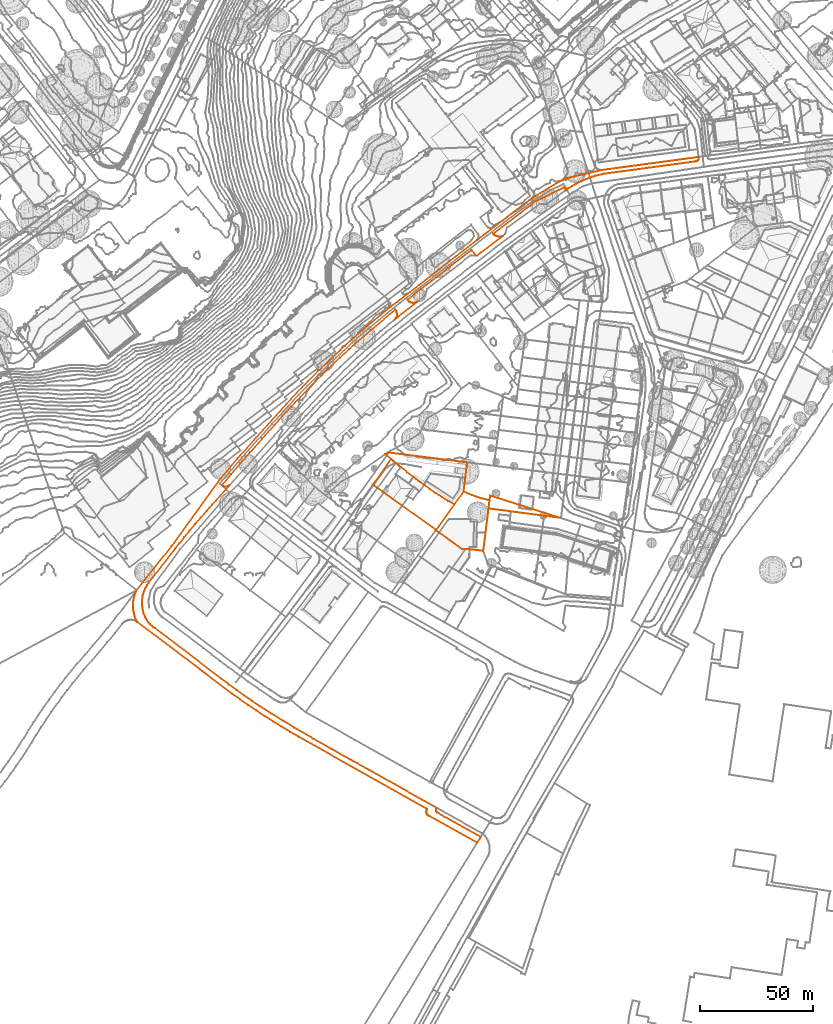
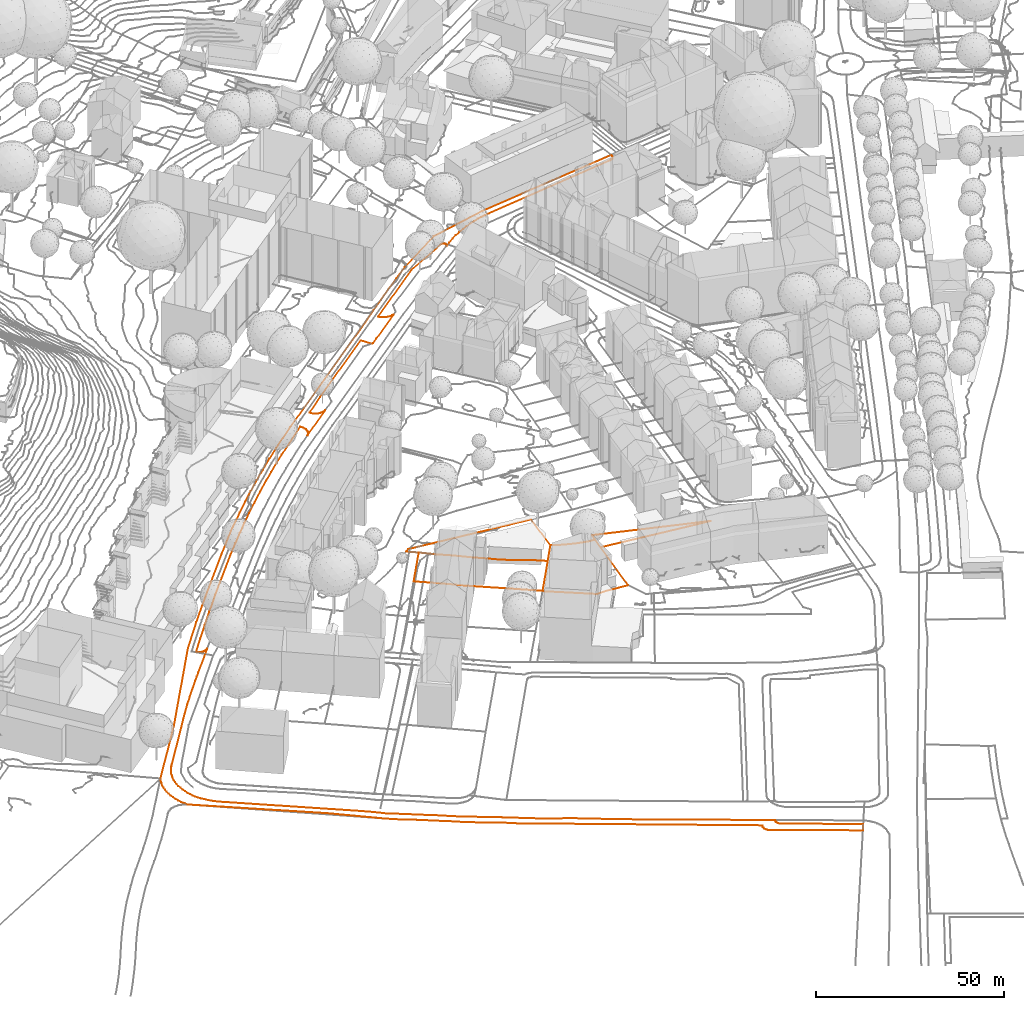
# Not in any storey, part 118 of 494: 5 proxies.
"""IFC2X3 model written with IfcOpenShell, lengths in metres."""

from ifc_helpers import new_model, entity, si_unit, frame, origin_with_axes, place, context, subcontext, project, element, save


model = new_model("IFC2X3")

# Units and contexts
model_context = context("Model", 3, precision=1e-05, world=origin_with_axes())
body_context = subcontext(model_context, "Body", "Model", "MODEL_VIEW")
ifc_project = project(units=[si_unit("AREAUNIT", "SQUARE_METRE"), si_unit("LENGTHUNIT", "METRE")], contexts=[model_context])

# Proxies
proxy_1_placement = place(None, frame((258.6207320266, -15.0252839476, 503.8566566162), z_axis=(0.0, 0.0, 1.0), x_axis=(1.0, 0.0, 0.0)))
element("IfcBuildingElementProxy", 1, at=proxy_1_placement, Name="Roads Outline 103", ObjectType="NOTDEFINED", context=body_context, shape_type="GeometricCurveSet", body=[
    entity("IfcGeometricCurveSet", [entity("IfcPolyline", [entity("IfcCartesianPoint", [1.611, 7.0649999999, 0.0298461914]), entity("IfcCartesianPoint", [17.1669999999, 26.7960000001, -0.1664721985]), entity("IfcCartesianPoint", [38.4780000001, 56.2720000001, -0.3232977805]), entity("IfcCartesianPoint", [46.469, 65.6499999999, -0.3978756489]), entity("IfcCartesianPoint", [54.6269999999, 74.926, -0.5072653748]), entity("IfcCartesianPoint", [68.2480000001, 89.9620000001, -0.6473626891]), entity("IfcCartesianPoint", [77.3870000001, 99.74, -0.7626127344]), entity("IfcCartesianPoint", [82.2609999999, 104.4909999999, -0.8225917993]), entity("IfcCartesianPoint", [86.0449999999, 108.186, -0.8359621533]), entity("IfcCartesianPoint", [89.8790000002, 111.828, -0.9376377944]), entity("IfcCartesianPoint", [93.7650000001, 115.4170000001, -0.9897374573]), entity("IfcCartesianPoint", [97.7000000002, 118.95, -1.0457364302]), entity("IfcCartesianPoint", [101.6809999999, 122.426, -1.0917887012]), entity("IfcCartesianPoint", [105.71, 125.8470000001, -1.1440215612]), entity("IfcCartesianPoint", [109.787, 129.2120000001, -1.2268797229]), entity("IfcCartesianPoint", [113.909, 132.52, -1.1977058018]), entity("IfcCartesianPoint", [121.807, 138.6799999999, -1.3148771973]), entity("IfcCartesianPoint", [152.7910000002, 162.585, -1.2873144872]), entity("IfcCartesianPoint", [160.0279999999, 168.1699999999, -1.1047125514]), entity("IfcCartesianPoint", [172.628, 177.8910000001, -0.9646272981]), entity("IfcCartesianPoint", [177.2290000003, 181.1840000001, -0.9536199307]), entity("IfcCartesianPoint", [191.0330000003, 189.6470000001, -0.8587447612]), entity("IfcCartesianPoint", [208.1800000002, 193.6170000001, -1.0532250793]), entity("IfcCartesianPoint", [224.858, 195.861, -1.1563147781]), entity("IfcCartesianPoint", [250.23, 199.277, -1.3678007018]), entity("IfcCartesianPoint", [251.085, 199.392, -1.3553995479]), entity("IfcCartesianPoint", [251.1230000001, 199.1200000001, -1.3535357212]), entity("IfcCartesianPoint", [251.1189999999, 198.8460000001, -1.3535559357]), entity("IfcCartesianPoint", [251.0729999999, 198.575, -1.3551996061]), entity("IfcCartesianPoint", [250.9590000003, 198.2520000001, -1.3566142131]), entity("IfcCartesianPoint", [250.7850000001, 197.956, -1.3559932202]), entity("IfcCartesianPoint", [250.5580000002, 197.699, -1.3516307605]), entity("IfcCartesianPoint", [250.2710000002, 197.591, -1.3486239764]), entity("IfcCartesianPoint", [249.977, 197.503, -1.3475760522]), entity("IfcCartesianPoint", [249.7080000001, 197.4399999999, -1.3480654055]), entity("IfcCartesianPoint", [249.4350000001, 197.3940000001, -1.3512664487]), entity("IfcCartesianPoint", [209.1910000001, 191.9380000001, -1.1516545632]), entity("IfcCartesianPoint", [207.9020000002, 191.679, -1.1146645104]), entity("IfcCartesianPoint", [206.6210000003, 191.379, -1.0530327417]), entity("IfcCartesianPoint", [205.3510000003, 191.04, -1.0110439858]), entity("IfcCartesianPoint", [203.8969999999, 190.5970000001, -0.9752242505]), entity("IfcCartesianPoint", [202.4610000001, 190.102, -0.9531931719]), entity("IfcCartesianPoint", [201.0440000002, 189.5549999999, -1.0156338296]), entity("IfcCartesianPoint", [199.6469999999, 188.956, -1.0330962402]), entity("IfcCartesianPoint", [198.0320000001, 188.1980000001, -1.074926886]), entity("IfcCartesianPoint", [196.4500000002, 187.3740000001, -1.055605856]), entity("IfcCartesianPoint", [194.9040000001, 186.4839999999, -1.0990647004]), entity("IfcCartesianPoint", [193.3960000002, 185.53, -1.159563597]), entity("IfcCartesianPoint", [191.9300000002, 184.514, -1.1621339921]), entity("IfcCartesianPoint", [192.074, 184.6780000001, -1.1609508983]), entity("IfcCartesianPoint", [192.165, 184.8770000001, -1.1516755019]), entity("IfcCartesianPoint", [192.1970000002, 185.0930000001, -1.1421356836]), entity("IfcCartesianPoint", [192.1660000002, 185.3090000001, -1.1314248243]), entity("IfcCartesianPoint", [192.0759999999, 185.5079999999, -1.117863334]), entity("IfcCartesianPoint", [191.9300000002, 185.676, -1.100429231]), entity("IfcCartesianPoint", [191.7420000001, 185.794, -1.0848717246]), entity("IfcCartesianPoint", [191.5279999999, 185.8540000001, -1.0730279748]), entity("IfcCartesianPoint", [191.3059999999, 185.8489999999, -1.0681995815]), entity("IfcCartesianPoint", [191.094, 185.781, -1.0644594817]), entity("IfcCartesianPoint", [178.3429999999, 179.4920000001, -1.0675894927]), entity("IfcCartesianPoint", [159.8280000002, 165.291, -1.2504426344]), entity("IfcCartesianPoint", [160.1669999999, 164.98, -1.2712112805]), entity("IfcCartesianPoint", [160.5380000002, 164.71, -1.2896322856]), entity("IfcCartesianPoint", [160.9380000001, 164.483, -1.3091541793]), entity("IfcCartesianPoint", [161.361, 164.304, -1.3317790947]), entity("IfcCartesianPoint", [161.8020000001, 164.173, -1.3564187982]), entity("IfcCartesianPoint", [162.358, 164.081, -1.381497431]), entity("IfcCartesianPoint", [162.9220000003, 164.068, -1.3990799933]), entity("IfcCartesianPoint", [163.4820000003, 164.1329999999, -1.4092275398]), entity("IfcCartesianPoint", [164.0270000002, 164.2760000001, -1.4320736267]), entity("IfcCartesianPoint", [154.5010000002, 157.0209999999, -1.5772423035]), entity("IfcCartesianPoint", [152.727, 155.682, -1.5841325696]), entity("IfcCartesianPoint", [152.3450000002, 155.6640000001, -1.5773495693]), entity("IfcCartesianPoint", [150.273, 158.118, -1.3086188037]), entity("IfcCartesianPoint", [127.8689999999, 140.852, -1.4144565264]), entity("IfcCartesianPoint", [121.8670000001, 136.0260000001, -1.435041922]), entity("IfcCartesianPoint", [122.1580000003, 135.6400000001, -1.4512081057]), entity("IfcCartesianPoint", [122.5060000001, 135.304, -1.4814651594]), entity("IfcCartesianPoint", [122.9020000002, 135.0279999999, -1.4995433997]), entity("IfcCartesianPoint", [123.338, 134.818, -1.5113944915]), entity("IfcCartesianPoint", [123.801, 134.6799999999, -1.5290622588]), entity("IfcCartesianPoint", [124.2290000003, 134.6200000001, -1.5432239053]), entity("IfcCartesianPoint", [124.6600000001, 134.6200000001, -1.5611359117]), entity("IfcCartesianPoint", [125.088, 134.682, -1.5998295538]), entity("IfcCartesianPoint", [125.5019999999, 134.8030000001, -1.6326389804]), entity("IfcCartesianPoint", [125.895, 134.9820000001, -1.626676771]), entity("IfcCartesianPoint", [126.2590000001, 135.2150000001, -1.6283719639]), entity("IfcCartesianPoint", [116.034, 127.1529999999, -1.4637402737]), entity("IfcCartesianPoint", [116.1540000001, 127.25, -1.4679252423]), entity("IfcCartesianPoint", [116.4960000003, 127.5930000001, -1.4860116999]), entity("IfcCartesianPoint", [116.7779999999, 127.9880000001, -1.4775026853]), entity("IfcCartesianPoint", [116.9920000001, 128.422, -1.4673896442]), entity("IfcCartesianPoint", [117.1340000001, 128.8859999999, -1.4596747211]), entity("IfcCartesianPoint", [117.199, 129.3659999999, -1.4431881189]), entity("IfcCartesianPoint", [117.1869999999, 129.844, -1.4242604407]), entity("IfcCartesianPoint", [117.1000000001, 130.314, -1.4067578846]), entity("IfcCartesianPoint", [116.9390000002, 130.764, -1.3892388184]), entity("IfcCartesianPoint", [116.7080000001, 131.183, -1.3700134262]), entity("IfcCartesianPoint", [116.4130000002, 131.5600000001, -1.3480214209]), entity("IfcCartesianPoint", [105.5929999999, 122.6100000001, -1.2604826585]), entity("IfcCartesianPoint", [102.3080000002, 119.78, -1.1140165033]), entity("IfcCartesianPoint", [99.0530000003, 116.9170000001, -1.0922674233]), entity("IfcCartesianPoint", [95.8280000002, 114.0190000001, -1.0838658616]), entity("IfcCartesianPoint", [91.9250000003, 110.4280000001, -1.0656046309]), entity("IfcCartesianPoint", [88.068, 106.787, -0.9873016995]), entity("IfcCartesianPoint", [84.2579999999, 103.0970000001, -0.9246332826]), entity("IfcCartesianPoint", [80.8250000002, 99.655, -0.9072780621]), entity("IfcCartesianPoint", [77.4240000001, 96.182, -0.8715245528]), entity("IfcCartesianPoint", [74.0559999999, 92.6769999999, -0.8256320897]), entity("IfcCartesianPoint", [70.25, 88.6370000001, -0.7667067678]), entity("IfcCartesianPoint", [66.4890000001, 84.5549999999, -0.7568500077]), entity("IfcCartesianPoint", [62.7719999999, 80.433, -0.6692784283]), entity("IfcCartesianPoint", [57.358, 74.3970000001, -0.5822079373]), entity("IfcCartesianPoint", [51.9939999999, 68.318, -0.5523515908]), entity("IfcCartesianPoint", [47.7860000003, 63.477, -0.4973750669]), entity("IfcCartesianPoint", [43.6090000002, 58.6089999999, -0.4328481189]), entity("IfcCartesianPoint", [39.4640000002, 53.713, -0.3825559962]), entity("IfcCartesianPoint", [39.7490000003, 53.469, -0.4004723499]), entity("IfcCartesianPoint", [40.0670000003, 53.27, -0.4130406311]), entity("IfcCartesianPoint", [40.412, 53.1229999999, -0.4200321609]), entity("IfcCartesianPoint", [40.7760000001, 53.03, -0.4312874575]), entity("IfcCartesianPoint", [41.1490000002, 52.993, -0.4487613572]), entity("IfcCartesianPoint", [41.5380000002, 53.017, -0.4685823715]), entity("IfcCartesianPoint", [41.9190000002, 53.102, -0.4797296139]), entity("IfcCartesianPoint", [42.2820000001, 53.247, -0.4904160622]), entity("IfcCartesianPoint", [42.6159999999, 53.4469999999, -0.5006207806]), entity("IfcCartesianPoint", [42.915, 53.6980000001, -0.5112209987]), entity("IfcCartesianPoint", [35.193, 45.128, -0.4059544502]), entity("IfcCartesianPoint", [33.9080000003, 43.6940000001, -0.3978402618]), entity("IfcCartesianPoint", [32.6290000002, 42.2560000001, -0.3842710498]), entity("IfcCartesianPoint", [30.0780000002, 39.375, -0.3584795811]), entity("IfcCartesianPoint", [27.5660000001, 36.459, -0.3437054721]), entity("IfcCartesianPoint", [25.1540000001, 33.5789999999, -0.3210536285]), entity("IfcCartesianPoint", [22.7820000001, 30.666, -0.2879650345]), entity("IfcCartesianPoint", [20.736, 28.112, -0.2667587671]), entity("IfcCartesianPoint", [18.7140000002, 25.54, -0.2429346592]), entity("IfcCartesianPoint", [7.426, 11.095, 0.0563121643]), entity("IfcCartesianPoint", [6.8110000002, 10.294, 0.0775391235]), entity("IfcCartesianPoint", [6.2510000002, 9.453, 0.0681148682]), entity("IfcCartesianPoint", [5.75, 8.5760000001, 0.0383312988]), entity("IfcCartesianPoint", [5.3089999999, 7.6670000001, 0.0301802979]), entity("IfcCartesianPoint", [4.9309999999, 6.7309999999, 0.0352444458]), entity("IfcCartesianPoint", [4.6170000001, 5.7709999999, 0.0394511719]), entity("IfcCartesianPoint", [4.3650000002, 4.7749999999, 0.0422764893]), entity("IfcCartesianPoint", [4.1830000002, 3.764, 0.044192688]), entity("IfcCartesianPoint", [4.071, 2.743, 0.0453718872]), entity("IfcCartesianPoint", [4.0290000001, 1.716, 0.0458140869]), entity("IfcCartesianPoint", [4.0580000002, 0.6899999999, 0.0455087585]), entity("IfcCartesianPoint", [4.1580000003, -0.3329999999, 0.0444559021]), entity("IfcCartesianPoint", [4.3280000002, -1.3459999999, 0.0426660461]), entity("IfcCartesianPoint", [4.568, -2.345, 0.0401076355]), entity("IfcCartesianPoint", [4.804, -3.1780000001, 0.0369458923]), entity("IfcCartesianPoint", [5.0950000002, -3.993, 0.0330473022]), entity("IfcCartesianPoint", [5.4410000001, -4.787, 0.0284118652]), entity("IfcCartesianPoint", [5.8390000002, -5.5549999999, 0.0436221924]), entity("IfcCartesianPoint", [6.3470000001, -6.382, 0.0738218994]), entity("IfcCartesianPoint", [6.9169999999, -7.169, 0.0738804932]), entity("IfcCartesianPoint", [7.5449999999, -7.909, 0.052204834]), entity("IfcCartesianPoint", [8.2280000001, -8.6000000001, 0.0204808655]), entity("IfcCartesianPoint", [8.9610000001, -9.237, -0.0226481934]), entity("IfcCartesianPoint", [9.7409999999, -9.8159999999, -0.0688883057]), entity("IfcCartesianPoint", [39.1869999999, -32.1710000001, 0.2172972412]), entity("IfcCartesianPoint", [42.5300000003, -34.7009999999, 0.2037538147]), entity("IfcCartesianPoint", [45.9080000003, -37.1850000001, -0.0214473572]), entity("IfcCartesianPoint", [49.3200000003, -39.6229999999, 0.1572172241]), entity("IfcCartesianPoint", [52.7650000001, -42.013, 0.1478450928]), entity("IfcCartesianPoint", [56.2430000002, -44.355, 0.1938013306]), entity("IfcCartesianPoint", [61.3140000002, -47.581, -0.0323348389]), entity("IfcCartesianPoint", [66.4190000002, -50.753, -0.0470189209]), entity("IfcCartesianPoint", [71.557, -53.871, -0.0976539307]), entity("IfcCartesianPoint", [79.8140000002, -58.675, -0.4374115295]), entity("IfcCartesianPoint", [88.108, -63.4169999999, -0.4054544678]), entity("IfcCartesianPoint", [96.5460000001, -68.1569999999, -0.7357007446]), entity("IfcCartesianPoint", [105.0189999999, -72.834, -1.0302424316]), entity("IfcCartesianPoint", [134.7680000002, -89.537, -1.4603580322]), entity("IfcCartesianPoint", [134.6290000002, -89.777, -1.4586273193]), entity("IfcCartesianPoint", [134.5320000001, -90.0360000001, -1.4574195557]), entity("IfcCartesianPoint", [134.4810000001, -90.3089999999, -1.4567845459]), entity("IfcCartesianPoint", [134.4760000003, -90.5859999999, -1.45672229]), entity("IfcCartesianPoint", [134.5350000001, -90.926, -1.4574569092]), entity("IfcCartesianPoint", [134.665, -91.246, -1.4590755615]), entity("IfcCartesianPoint", [134.8599999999, -91.5319999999, -1.46150354]), entity("IfcCartesianPoint", [154.3620000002, -102.405, -1.8314281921]), entity("IfcCartesianPoint", [152.7779999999, -104.9579999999, -1.794117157]), entity("IfcCartesianPoint", [131.0810000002, -92.848, -1.4144810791]), entity("IfcCartesianPoint", [130.7689999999, -92.601, -1.4105963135]), entity("IfcCartesianPoint", [130.5120000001, -92.297, -1.4073977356]), entity("IfcCartesianPoint", [130.3200000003, -91.9480000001, -1.40501297]), entity("IfcCartesianPoint", [130.2009999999, -91.568, -1.4035349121]), entity("IfcCartesianPoint", [130.165, -91.173, -1.4030877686]), entity("IfcCartesianPoint", [130.2080000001, -90.7779999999, -1.4036218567]), entity("IfcCartesianPoint", [130.3280000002, -90.3999999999, -1.4051123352]), entity("IfcCartesianPoint", [130.5210000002, -90.0530000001, -1.4075095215]), entity("IfcCartesianPoint", [73.648, -58.048, -0.2546949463]), entity("IfcCartesianPoint", [69.8100000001, -55.808, -0.0082165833]), entity("IfcCartesianPoint", [66.0, -53.5190000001, -0.0212406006]), entity("IfcCartesianPoint", [62.2200000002, -51.182, -0.0510916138]), entity("IfcCartesianPoint", [58.4700000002, -48.798, 0.1252438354]), entity("IfcCartesianPoint", [54.7579999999, -46.358, 0.1631678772]), entity("IfcCartesianPoint", [51.0780000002, -43.871, 0.1983815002]), entity("IfcCartesianPoint", [47.429, -41.3370000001, 0.0411968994]), entity("IfcCartesianPoint", [43.8119999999, -38.7579999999, 0.067796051]), entity("IfcCartesianPoint", [31.648, -29.5419999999, 0.4580260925]), entity("IfcCartesianPoint", [1.8900000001, -6.996, 0.0247886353]), entity("IfcCartesianPoint", [1.4139999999, -6.0649999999, 0.0256100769]), entity("IfcCartesianPoint", [1.003, -5.1040000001, 0.010621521]), entity("IfcCartesianPoint", [0.6610000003, -4.1159999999, -0.001850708]), entity("IfcCartesianPoint", [0.389, -3.1070000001, -0.0039412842]), entity("IfcCartesianPoint", [0.1869999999, -2.081, -0.0018946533]), entity("IfcCartesianPoint", [0.057, -1.044, -0.0005775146]), entity("IfcCartesianPoint", [0.0, 0.0, 0.0]), entity("IfcCartesianPoint", [0.0160000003, 1.0449999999, -0.0001621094]), entity("IfcCartesianPoint", [0.1040000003, 2.0870000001, -0.0010537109]), entity("IfcCartesianPoint", [0.2650000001, 3.1200000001, -0.0026849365]), entity("IfcCartesianPoint", [0.497, 4.139, -0.0050355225]), entity("IfcCartesianPoint", [0.8000000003, 5.139, 0.0032184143]), entity("IfcCartesianPoint", [1.1720000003, 6.1159999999, 0.0167846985]), entity("IfcCartesianPoint", [1.611, 7.0649999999, 0.0298461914])])]),
])
proxy_2_placement = place(None, frame((392.9997320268, 18.6467160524, 502.1115693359), z_axis=(0.0, 0.0, 1.0), x_axis=(1.0, 0.0, 0.0)))
element("IfcBuildingElementProxy", 2, at=proxy_2_placement, Name="Cadastre 169", ObjectType="NOTDEFINED", context=body_context, shape_type="GeometricCurveSet", body=[
    entity("IfcGeometricCurveSet", [entity("IfcPolyline", [entity("IfcCartesianPoint", [0.0, 0.0, 0.0]), entity("IfcCartesianPoint", [0.1319999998, 0.1810000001, 0.0021309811]), entity("IfcCartesianPoint", [8.213, 11.4620000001, 0.0054230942]), entity("IfcCartesianPoint", [12.3530000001, 17.2320000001, 0.1827259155]), entity("IfcCartesianPoint", [14.2050000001, 16.3940000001, 0.0818501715]), entity("IfcCartesianPoint", [16.088, 15.628, 0.1114618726]), entity("IfcCartesianPoint", [17.9989999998, 14.9350000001, 0.0823230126]), entity("IfcCartesianPoint", [19.9350000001, 14.3160000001, 0.1016573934]), entity("IfcCartesianPoint", [21.8929999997, 13.7709999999, 0.1663202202]), entity("IfcCartesianPoint", [23.8709999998, 13.3019999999, 0.320588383]), entity("IfcCartesianPoint", [23.4210000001, 9.702, 0.204112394]), entity("IfcCartesianPoint", [21.0800000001, -9.108, 0.0944309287]), entity("IfcCartesianPoint", [15.1009999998, -8.3840000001, 0.0595104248]), entity("IfcCartesianPoint", [11.7409999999, -8.398, 0.0977379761]), entity("IfcCartesianPoint", [1.6189999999, -1.1580000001, 0.0153770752]), entity("IfcCartesianPoint", [0.0, 0.0, 0.0])])]),
])
proxy_3_placement = place(None, frame((416.4207320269, 28.3487160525, 502.3156817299), z_axis=(0.0, 0.0, 1.0), x_axis=(1.0, 0.0, 0.0)))
element("IfcBuildingElementProxy", 3, at=proxy_3_placement, Name="Cadastre 170", ObjectType="NOTDEFINED", context=body_context, shape_type="GeometricCurveSet", body=[
    entity("IfcGeometricCurveSet", [entity("IfcPolyline", [entity("IfcCartesianPoint", [0.0, 0.0, 0.0]), entity("IfcCartesianPoint", [0.4499999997, 3.5999999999, 0.116475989]), entity("IfcCartesianPoint", [0.7109999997, 5.72, 0.2269686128]), entity("IfcCartesianPoint", [31.497, -4.1200000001, 0.0217200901]), entity("IfcCartesianPoint", [24.6679999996, -3.23, -0.0088593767]), entity("IfcCartesianPoint", [0.0, 0.0, 0.0])])]),
])
proxy_4_placement = place(None, frame((365.0657320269, 38.8877160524, 502.8173265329), z_axis=(0.0, 0.0, 1.0), x_axis=(1.0, 0.0, 0.0)))
element("IfcBuildingElementProxy", 4, at=proxy_4_placement, Name="Cadastre 172", ObjectType="NOTDEFINED", context=body_context, shape_type="GeometricCurveSet", body=[
    entity("IfcGeometricCurveSet", [entity("IfcPolyline", [entity("IfcCartesianPoint", [0.0, 0.0, 0.0]), entity("IfcCartesianPoint", [8.1099999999, 11.321, -0.3301255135]), entity("IfcCartesianPoint", [11.6869999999, 8.3840000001, -0.3782512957]), entity("IfcCartesianPoint", [15.3069999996, 5.5010000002, -0.2755920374]), entity("IfcCartesianPoint", [18.9719999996, 2.6730000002, -0.4055232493]), entity("IfcCartesianPoint", [22.6779999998, -0.0989999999, -0.4484085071]), entity("IfcCartesianPoint", [25.2959999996, -1.95, -0.5794648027]), entity("IfcCartesianPoint", [27.9529999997, -3.7439999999, -0.58346291]), entity("IfcCartesianPoint", [30.6489999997, -5.48, -0.5477310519]), entity("IfcCartesianPoint", [33.3799999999, -7.159, -0.4852094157]), entity("IfcCartesianPoint", [36.1469999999, -8.7789999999, -0.7003341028]), entity("IfcCartesianPoint", [28.0659999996, -20.0599999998, -0.7036262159]), entity("IfcCartesianPoint", [13.0609999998, -9.3429999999, -0.4644923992]), entity("IfcCartesianPoint", [4.4409999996, -3.176, -0.1046389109]), entity("IfcCartesianPoint", [0.0, 0.0, 0.0])])]),
])
proxy_5_placement = place(None, frame((370.5367320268, 52.4487160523, 502.343602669), z_axis=(0.0, 0.0, 1.0), x_axis=(1.0, 0.0, 0.0)))
element("IfcBuildingElementProxy", 5, at=proxy_5_placement, Name="Cadastre 173", ObjectType="NOTDEFINED", context=body_context, shape_type="GeometricCurveSet", body=[
    entity("IfcGeometricCurveSet", [entity("IfcPolyline", [entity("IfcCartesianPoint", [0.0, 0.0, 0.0]), entity("IfcCartesianPoint", [1.1200000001, 0.78, -0.0567659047]), entity("IfcCartesianPoint", [5.4189999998, 0.24, -0.0466914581]), entity("IfcCartesianPoint", [36.3769999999, -3.6599999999, -0.0461489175]), entity("IfcCartesianPoint", [34.8160000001, -16.5699999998, -0.0493074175]), entity("IfcCartesianPoint", [30.676, -22.3399999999, -0.2266102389]), entity("IfcCartesianPoint", [27.909, -20.72, -0.0114855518]), entity("IfcCartesianPoint", [25.1779999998, -19.041, -0.074007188]), entity("IfcCartesianPoint", [22.4819999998, -17.3049999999, -0.109739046]), entity("IfcCartesianPoint", [19.8249999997, -15.5109999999, -0.1057409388]), entity("IfcCartesianPoint", [17.2069999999, -13.6599999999, 0.0253153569]), entity("IfcCartesianPoint", [13.5009999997, -10.8879999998, 0.0682006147]), entity("IfcCartesianPoint", [9.8359999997, -8.0599999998, 0.1981318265]), entity("IfcCartesianPoint", [6.216, -5.1769999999, 0.0954725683]), entity("IfcCartesianPoint", [2.639, -2.24, 0.1435983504]), entity("IfcCartesianPoint", [0.0, 0.0, 0.0])])]),
])

save(model, "model.ifc")
